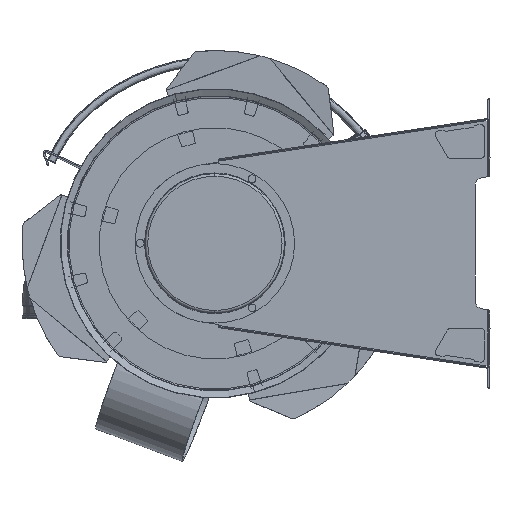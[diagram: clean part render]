
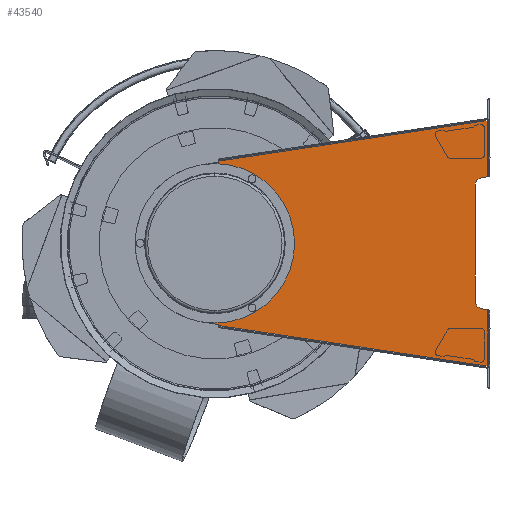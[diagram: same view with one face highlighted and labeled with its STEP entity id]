
A CAD part, left-side view. The second image highlights one B-rep face of the part: STEP entity #43540.
In plain terms, the highlighted planar face has unit normal (-1, 0, 0) as drawn and (1, 0, 0) by its records, which use the part's own axes.
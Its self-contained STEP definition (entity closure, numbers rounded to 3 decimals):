
#41317=DIRECTION('',(0.,0.,-1.));
#41318=VECTOR('',#41317,224.827);
#41319=CARTESIAN_POINT('',(2.,-506.142,112.414));
#41320=LINE('',#41319,#41318);
#41345=CARTESIAN_POINT('',(2.,0.,0.));
#41346=DIRECTION('',(-1.,0.,0.));
#41347=DIRECTION('',(0.,-1.,0.));
#41348=AXIS2_PLACEMENT_3D('',#41345,#41346,#41347);
#41353=CARTESIAN_POINT('',(2.,0.,0.));
#41354=DIRECTION('',(1.,0.,0.));
#41355=DIRECTION('',(0.,-1.,0.));
#41356=AXIS2_PLACEMENT_3D('',#41353,#41354,#41355);
#41361=DIRECTION('',(0.,-0.989,-0.149));
#41362=VECTOR('',#41361,3.167);
#41363=CARTESIAN_POINT('',(2.,23.131,-153.264));
#41364=LINE('',#41363,#41362);
#41368=DIRECTION('',(0.,-0.989,-0.149));
#41369=VECTOR('',#41368,6.833);
#41370=CARTESIAN_POINT('',(2.,20.,-153.737));
#41371=LINE('',#41370,#41369);
#41375=DIRECTION('',(0.,-0.989,-0.149));
#41376=VECTOR('',#41375,20.342);
#41377=CARTESIAN_POINT('',(2.,13.243,-154.757));
#41378=LINE('',#41377,#41376);
#41382=CARTESIAN_POINT('',(2.,-21.703,-160.031));
#41383=DIRECTION('',(-1.,0.,0.));
#41384=DIRECTION('',(0.,0.989,0.149));
#41385=AXIS2_PLACEMENT_3D('',#41382,#41383,#41384);
#41390=DIRECTION('',(0.,0.989,0.149));
#41391=VECTOR('',#41390,3.851);
#41392=CARTESIAN_POINT('',(2.,-531.,-238.919));
#41393=LINE('',#41392,#41391);
#41397=DIRECTION('',(0.,0.985,0.174));
#41398=VECTOR('',#41397,12.655);
#41399=CARTESIAN_POINT('',(2.,-531.,-129.383));
#41400=LINE('',#41399,#41398);
#41404=DIRECTION('',(0.,0.985,-0.174));
#41405=VECTOR('',#41404,12.655);
#41406=CARTESIAN_POINT('',(2.,-531.,129.383));
#41407=LINE('',#41406,#41405);
#41411=DIRECTION('',(0.,0.989,-0.149));
#41412=VECTOR('',#41411,3.851);
#41413=CARTESIAN_POINT('',(2.,-531.,238.919));
#41414=LINE('',#41413,#41412);
#41418=CARTESIAN_POINT('',(2.,-21.703,160.031));
#41419=DIRECTION('',(1.,0.,0.));
#41420=DIRECTION('',(0.,0.989,-0.149));
#41421=AXIS2_PLACEMENT_3D('',#41418,#41419,#41420);
#41426=DIRECTION('',(0.,-0.989,0.149));
#41427=VECTOR('',#41426,20.342);
#41428=CARTESIAN_POINT('',(2.,13.243,154.757));
#41429=LINE('',#41428,#41427);
#41433=DIRECTION('',(0.,-0.989,0.149));
#41434=VECTOR('',#41433,6.833);
#41435=CARTESIAN_POINT('',(2.,20.,153.737));
#41436=LINE('',#41435,#41434);
#41440=DIRECTION('',(0.,-0.989,0.149));
#41441=VECTOR('',#41440,3.167);
#41442=CARTESIAN_POINT('',(2.,23.131,153.264));
#41443=LINE('',#41442,#41441);
#41469=CARTESIAN_POINT('',(2.,0.,0.));
#41470=DIRECTION('',(1.,0.,0.));
#41471=DIRECTION('',(0.,0.149,-0.989));
#41472=AXIS2_PLACEMENT_3D('',#41469,#41470,#41471);
#41729=CARTESIAN_POINT('',(2.,-6.705,-159.79));
#41753=DIRECTION('',(0.,-0.989,-0.149));
#41754=VECTOR('',#41753,526.381);
#41755=CARTESIAN_POINT('',(2.,-6.705,-159.79));
#41756=LINE('',#41755,#41754);
#41847=CARTESIAN_POINT('',(2.,-521.142,-112.414));
#41848=DIRECTION('',(1.,0.,0.));
#41849=DIRECTION('',(0.,0.174,-0.985));
#41850=AXIS2_PLACEMENT_3D('',#41847,#41848,#41849);
#41880=DIRECTION('',(0.,0.,1.));
#41881=VECTOR('',#41880,109.536);
#41882=CARTESIAN_POINT('',(2.,-531.,-238.919));
#41883=LINE('',#41882,#41881);
#42470=CARTESIAN_POINT('',(2.,-6.705,159.79));
#42487=DIRECTION('',(0.,-0.989,0.149));
#42488=VECTOR('',#42487,526.381);
#42489=CARTESIAN_POINT('',(2.,-6.705,159.79));
#42490=LINE('',#42489,#42488);
#43045=DIRECTION('',(0.,0.,-1.));
#43046=VECTOR('',#43045,109.536);
#43047=CARTESIAN_POINT('',(2.,-531.,238.919));
#43048=LINE('',#43047,#43046);
#43123=CARTESIAN_POINT('',(2.,-521.142,112.414));
#43124=DIRECTION('',(-1.,0.,0.));
#43125=DIRECTION('',(0.,0.174,0.985));
#43126=AXIS2_PLACEMENT_3D('',#43123,#43124,#43125);
#43135=CARTESIAN_POINT('',(2.,-33.,0.));
#43136=CARTESIAN_POINT('',(2.,33.,0.));
#43137=VERTEX_POINT('',#43135);
#43138=VERTEX_POINT('',#43136);
#43140=CARTESIAN_POINT('',(2.,23.131,153.264));
#43142=VERTEX_POINT('',#43140);
#43159=CARTESIAN_POINT('',(2.,-531.,238.919));
#43160=CARTESIAN_POINT('',(2.,-527.192,238.344));
#43161=VERTEX_POINT('',#43159);
#43162=VERTEX_POINT('',#43160);
#43192=CARTESIAN_POINT('',(2.,23.131,-153.264));
#43194=VERTEX_POINT('',#43192);
#43211=CARTESIAN_POINT('',(2.,-531.,-238.919));
#43212=CARTESIAN_POINT('',(2.,-527.192,-238.344));
#43213=VERTEX_POINT('',#43211);
#43214=VERTEX_POINT('',#43212);
#43244=CARTESIAN_POINT('',(2.,-531.,129.383));
#43246=VERTEX_POINT('',#43244);
#43256=CARTESIAN_POINT('',(2.,-531.,-129.383));
#43258=VERTEX_POINT('',#43256);
#43268=CARTESIAN_POINT('',(2.,-506.142,112.414));
#43270=VERTEX_POINT('',#43268);
#43272=CARTESIAN_POINT('',(2.,-518.537,127.186));
#43274=VERTEX_POINT('',#43272);
#43276=CARTESIAN_POINT('',(2.,-506.142,-112.414));
#43278=VERTEX_POINT('',#43276);
#43280=CARTESIAN_POINT('',(2.,-518.537,-127.186));
#43282=VERTEX_POINT('',#43280);
#43291=CARTESIAN_POINT('',(2.,20.,153.737));
#43292=CARTESIAN_POINT('',(2.,13.243,154.757));
#43293=VERTEX_POINT('',#43291);
#43294=VERTEX_POINT('',#43292);
#43300=VERTEX_POINT('',#42470);
#43309=CARTESIAN_POINT('',(2.,20.,-153.737));
#43310=CARTESIAN_POINT('',(2.,13.243,-154.757));
#43311=VERTEX_POINT('',#43309);
#43312=VERTEX_POINT('',#43310);
#43318=VERTEX_POINT('',#41729);
#43345=CARTESIAN_POINT('',(2.,-6.871,157.792));
#43346=VERTEX_POINT('',#43345);
#43349=CARTESIAN_POINT('',(2.,-6.871,-157.792));
#43350=VERTEX_POINT('',#43349);
#43488=CARTESIAN_POINT('',(2.,0.,0.));
#43489=DIRECTION('',(1.,0.,0.));
#43490=DIRECTION('',(0.,0.,-1.));
#43491=AXIS2_PLACEMENT_3D('',#43488,#43489,#43490);
#43492=PLANE('',#43491);
#43494=ORIENTED_EDGE('',*,*,#43493,.F.);
#43496=ORIENTED_EDGE('',*,*,#43495,.T.);
#43498=ORIENTED_EDGE('',*,*,#43497,.T.);
#43500=ORIENTED_EDGE('',*,*,#43499,.T.);
#43502=ORIENTED_EDGE('',*,*,#43501,.T.);
#43504=ORIENTED_EDGE('',*,*,#43503,.T.);
#43506=ORIENTED_EDGE('',*,*,#43505,.F.);
#43508=ORIENTED_EDGE('',*,*,#43507,.T.);
#43510=ORIENTED_EDGE('',*,*,#43509,.T.);
#43512=ORIENTED_EDGE('',*,*,#43511,.T.);
#43513=ORIENTED_EDGE('',*,*,#43478,.F.);
#43515=ORIENTED_EDGE('',*,*,#43514,.F.);
#43517=ORIENTED_EDGE('',*,*,#43516,.F.);
#43519=ORIENTED_EDGE('',*,*,#43518,.F.);
#43521=ORIENTED_EDGE('',*,*,#43520,.T.);
#43523=ORIENTED_EDGE('',*,*,#43522,.F.);
#43525=ORIENTED_EDGE('',*,*,#43524,.F.);
#43527=ORIENTED_EDGE('',*,*,#43526,.F.);
#43529=ORIENTED_EDGE('',*,*,#43528,.F.);
#43531=ORIENTED_EDGE('',*,*,#43530,.F.);
#43532=EDGE_LOOP('',(#43494,#43496,#43498,#43500,#43502,#43504,#43506,#43508,
#43510,#43512,#43513,#43515,#43517,#43519,#43521,#43523,#43525,#43527,#43529,
#43531));
#43533=FACE_OUTER_BOUND('',#43532,.F.);
#43535=ORIENTED_EDGE('',*,*,#43534,.F.);
#43537=ORIENTED_EDGE('',*,*,#43536,.T.);
#43538=EDGE_LOOP('',(#43535,#43537));
#43539=FACE_BOUND('',#43538,.F.);
#41349=CIRCLE('',#41348,33.);
#41357=CIRCLE('',#41356,33.);
#41386=CIRCLE('',#41385,15.);
#41422=CIRCLE('',#41421,15.);
#41473=CIRCLE('',#41472,155.);
#41851=CIRCLE('',#41850,15.);
#43127=CIRCLE('',#43126,15.);
#43478=EDGE_CURVE('',#43270,#43278,#41320,.T.);
#43493=EDGE_CURVE('',#43194,#43142,#41473,.T.);
#43495=EDGE_CURVE('',#43194,#43311,#41364,.T.);
#43497=EDGE_CURVE('',#43311,#43312,#41371,.T.);
#43499=EDGE_CURVE('',#43312,#43350,#41378,.T.);
#43501=EDGE_CURVE('',#43350,#43318,#41386,.T.);
#43503=EDGE_CURVE('',#43318,#43214,#41756,.T.);
#43505=EDGE_CURVE('',#43213,#43214,#41393,.T.);
#43507=EDGE_CURVE('',#43213,#43258,#41883,.T.);
#43509=EDGE_CURVE('',#43258,#43282,#41400,.T.);
#43511=EDGE_CURVE('',#43282,#43278,#41851,.T.);
#43514=EDGE_CURVE('',#43274,#43270,#43127,.T.);
#43516=EDGE_CURVE('',#43246,#43274,#41407,.T.);
#43518=EDGE_CURVE('',#43161,#43246,#43048,.T.);
#43520=EDGE_CURVE('',#43161,#43162,#41414,.T.);
#43522=EDGE_CURVE('',#43300,#43162,#42490,.T.);
#43524=EDGE_CURVE('',#43346,#43300,#41422,.T.);
#43526=EDGE_CURVE('',#43294,#43346,#41429,.T.);
#43528=EDGE_CURVE('',#43293,#43294,#41436,.T.);
#43530=EDGE_CURVE('',#43142,#43293,#41443,.T.);
#43534=EDGE_CURVE('',#43137,#43138,#41349,.T.);
#43536=EDGE_CURVE('',#43137,#43138,#41357,.T.);
#43540=ADVANCED_FACE('',(#43533,#43539),#43492,.T.);
